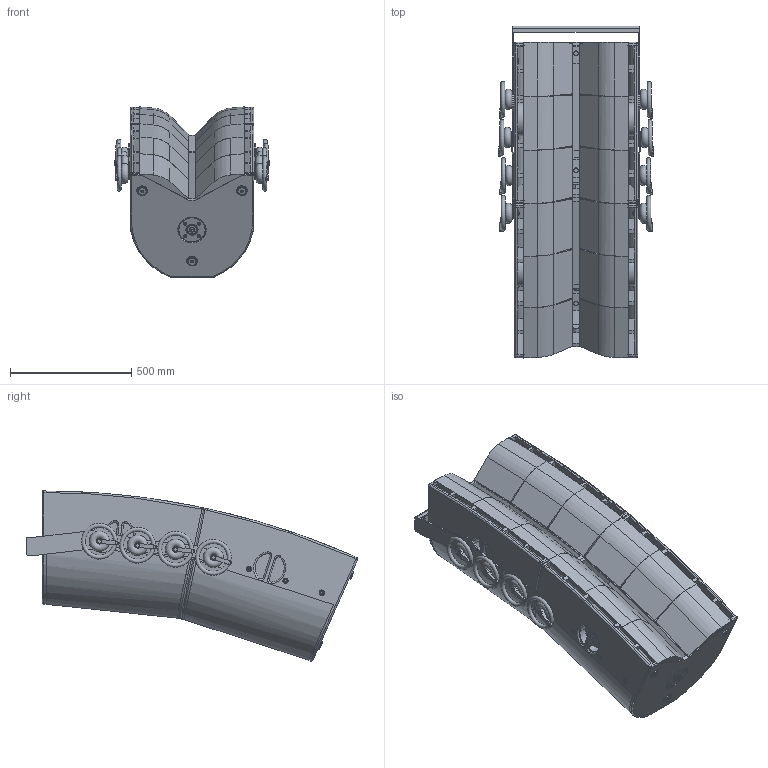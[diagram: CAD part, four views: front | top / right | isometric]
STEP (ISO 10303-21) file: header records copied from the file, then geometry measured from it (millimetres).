
FILE_DESCRIPTION (( 'STEP AP203' ), '1' );
FILE_NAME ('G3_Stack_Bracket_01.STEP', '2012-10-16T11:17:20', ( 'Fabian' ), ( '' ), 'SwSTEP 2.0', 'SolidWorks 2009', '' );
FILE_SCHEMA (( 'CONFIG_CONTROL_DESIGN' ));
Products named in the file (59): Imported31; Imported32; Imported33; Imported39; Imported38; Imported44; Imported46; Imported45; Imported51; Imported52; Imported58; Imported57; Imported59; Imported66; Imported65; Imported64; Imported71; Imported72; Imported77; Imported78; Imported79; Imported84; G3_Stack_Bracket_01; G3_Stack_Bracket; Imported28; Imported29; Imported30; Imported34; Imported35; Imported36; Imported37; Imported40; Imported41; Imported42; Imported43; Imported47; Imported48; Imported49; Imported50; Imported53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
Assembly tree (58 placements, depth 3):
  G3_Stack_Bracket_01
    G3_Stack_Bracket
      Imported61
      Imported66
      Imported68
      Imported49
      Imported46
      Imported62
      Imported70
      Imported74
      Imported76
      Imported30
      Imported32
      Imported36
      Imported38
      Imported48
      Imported75
      Imported82
      Imported64
      Imported80
      Imported31
      Imported60
      Imported84
      Imported37
      Imported47
      Imported52
      Imported54
      Imported78
      Imported34
      Imported39
      Imported42
      Imported53
      Imported63
      Imported51
      Imported67
      Imported79
      Imported81
      Imported28
      Imported29
      Imported35
      Imported56
      Imported57
      Imported69
      Imported40
      Imported50
      Imported55
      Imported77
      Imported43
      Imported44
      Imported45
      Imported83
      Imported59
      Imported65
      Imported72
      Imported33
      Imported41
      Imported73
      Imported58
      Imported71
Bounding box: 641.25 x 1371.47 x 703.31 mm (x, y, z)
Volume: 16847747 mm3; surface area: 8465606 mm2
Topology: 71 solids, 77 shells, 2106 faces, 5439 edges, 3527 vertices
Faces by surface type: plane 810, cylinder 768, cone 302, torus 200, bspline 16, sphere 10
Entity records: 99020 total; most frequent: CARTESIAN_POINT 42110, ORIENTED_EDGE 10762, DIRECTION 10294, EDGE_CURVE 5385, AXIS2_PLACEMENT_3D 3902, VERTEX_POINT 3501, LINE 2490, VECTOR 2490
